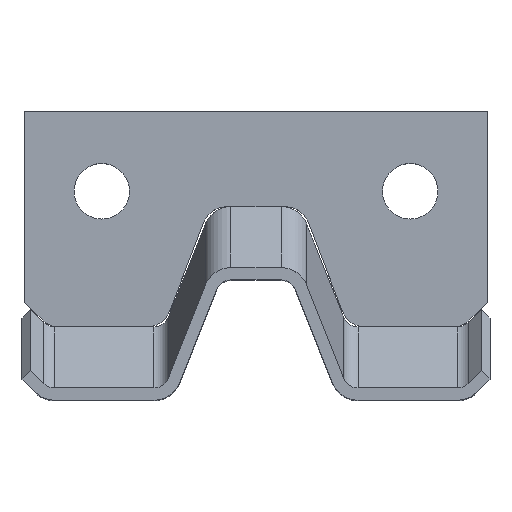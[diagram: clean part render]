
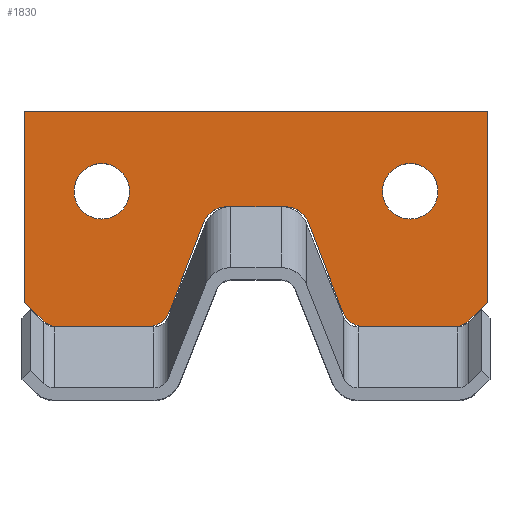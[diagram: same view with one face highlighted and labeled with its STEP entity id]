
A CAD part, top view. The second image highlights one B-rep face of the part: STEP entity #1830.
In plain terms, the highlighted planar face has unit normal (0, 0, 1).
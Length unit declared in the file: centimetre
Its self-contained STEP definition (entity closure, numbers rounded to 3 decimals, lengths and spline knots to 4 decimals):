
#88=FACE_BOUND('',#211,.T.);
#89=FACE_BOUND('',#212,.T.);
#100=FACE_OUTER_BOUND('',#210,.T.);
#210=EDGE_LOOP('',(#1220,#1221,#1222,#1223,#1224,#1225,#1226,#1227,#1228,
#1229,#1230,#1231,#1232,#1233,#1234,#1235,#1236,#1237));
#211=EDGE_LOOP('',(#1238));
#212=EDGE_LOOP('',(#1239));
#332=CIRCLE('',#1943,0.8);
#333=CIRCLE('',#1944,0.8);
#334=CIRCLE('',#1945,0.8);
#335=CIRCLE('',#1946,0.8);
#336=CIRCLE('',#1947,0.8);
#337=CIRCLE('',#1948,0.8);
#338=CIRCLE('',#1949,0.9);
#339=CIRCLE('',#1950,0.9);
#380=LINE('',#2696,#582);
#381=LINE('',#2698,#583);
#382=LINE('',#2700,#584);
#383=LINE('',#2704,#585);
#384=LINE('',#2708,#586);
#385=LINE('',#2712,#587);
#386=LINE('',#2714,#588);
#387=LINE('',#2716,#589);
#388=LINE('',#2720,#590);
#389=LINE('',#2724,#591);
#390=LINE('',#2728,#592);
#391=LINE('',#2729,#593);
#582=VECTOR('',#2128,0.1);
#583=VECTOR('',#2129,0.1);
#584=VECTOR('',#2130,0.1);
#585=VECTOR('',#2133,0.1);
#586=VECTOR('',#2136,0.1);
#587=VECTOR('',#2139,0.1);
#588=VECTOR('',#2140,0.1);
#589=VECTOR('',#2141,0.1);
#590=VECTOR('',#2144,0.1);
#591=VECTOR('',#2147,0.1);
#592=VECTOR('',#2150,0.1);
#593=VECTOR('',#2151,0.1);
#784=VERTEX_POINT('',#2694);
#785=VERTEX_POINT('',#2695);
#786=VERTEX_POINT('',#2697);
#787=VERTEX_POINT('',#2699);
#788=VERTEX_POINT('',#2701);
#789=VERTEX_POINT('',#2703);
#790=VERTEX_POINT('',#2705);
#791=VERTEX_POINT('',#2707);
#792=VERTEX_POINT('',#2709);
#793=VERTEX_POINT('',#2711);
#794=VERTEX_POINT('',#2713);
#795=VERTEX_POINT('',#2715);
#796=VERTEX_POINT('',#2717);
#797=VERTEX_POINT('',#2719);
#798=VERTEX_POINT('',#2721);
#799=VERTEX_POINT('',#2723);
#800=VERTEX_POINT('',#2725);
#801=VERTEX_POINT('',#2727);
#802=VERTEX_POINT('',#2730);
#803=VERTEX_POINT('',#2732);
#946=EDGE_CURVE('',#784,#785,#380,.T.);
#947=EDGE_CURVE('',#785,#786,#381,.T.);
#948=EDGE_CURVE('',#786,#787,#382,.T.);
#949=EDGE_CURVE('',#787,#788,#332,.T.);
#950=EDGE_CURVE('',#789,#788,#383,.T.);
#951=EDGE_CURVE('',#789,#790,#333,.T.);
#952=EDGE_CURVE('',#790,#791,#384,.T.);
#953=EDGE_CURVE('',#791,#792,#334,.T.);
#954=EDGE_CURVE('',#792,#793,#385,.T.);
#955=EDGE_CURVE('',#794,#793,#386,.T.);
#956=EDGE_CURVE('',#794,#795,#387,.T.);
#957=EDGE_CURVE('',#795,#796,#335,.T.);
#958=EDGE_CURVE('',#796,#797,#388,.T.);
#959=EDGE_CURVE('',#797,#798,#336,.T.);
#960=EDGE_CURVE('',#799,#798,#389,.T.);
#961=EDGE_CURVE('',#799,#800,#337,.T.);
#962=EDGE_CURVE('',#800,#801,#390,.T.);
#963=EDGE_CURVE('',#801,#784,#391,.T.);
#964=EDGE_CURVE('',#802,#802,#338,.T.);
#965=EDGE_CURVE('',#803,#803,#339,.T.);
#1220=ORIENTED_EDGE('',*,*,#946,.T.);
#1221=ORIENTED_EDGE('',*,*,#947,.T.);
#1222=ORIENTED_EDGE('',*,*,#948,.T.);
#1223=ORIENTED_EDGE('',*,*,#949,.T.);
#1224=ORIENTED_EDGE('',*,*,#950,.F.);
#1225=ORIENTED_EDGE('',*,*,#951,.T.);
#1226=ORIENTED_EDGE('',*,*,#952,.T.);
#1227=ORIENTED_EDGE('',*,*,#953,.T.);
#1228=ORIENTED_EDGE('',*,*,#954,.T.);
#1229=ORIENTED_EDGE('',*,*,#955,.F.);
#1230=ORIENTED_EDGE('',*,*,#956,.T.);
#1231=ORIENTED_EDGE('',*,*,#957,.T.);
#1232=ORIENTED_EDGE('',*,*,#958,.T.);
#1233=ORIENTED_EDGE('',*,*,#959,.T.);
#1234=ORIENTED_EDGE('',*,*,#960,.F.);
#1235=ORIENTED_EDGE('',*,*,#961,.T.);
#1236=ORIENTED_EDGE('',*,*,#962,.T.);
#1237=ORIENTED_EDGE('',*,*,#963,.T.);
#1238=ORIENTED_EDGE('',*,*,#964,.T.);
#1239=ORIENTED_EDGE('',*,*,#965,.T.);
#1768=PLANE('',#1942);
#1830=ADVANCED_FACE('',(#100,#88,#89),#1768,.T.);
#1942=AXIS2_PLACEMENT_3D('',#2693,#2126,#2127);
#1943=AXIS2_PLACEMENT_3D('',#2702,#2131,#2132);
#1944=AXIS2_PLACEMENT_3D('',#2706,#2134,#2135);
#1945=AXIS2_PLACEMENT_3D('',#2710,#2137,#2138);
#1946=AXIS2_PLACEMENT_3D('',#2718,#2142,#2143);
#1947=AXIS2_PLACEMENT_3D('',#2722,#2145,#2146);
#1948=AXIS2_PLACEMENT_3D('',#2726,#2148,#2149);
#1949=AXIS2_PLACEMENT_3D('',#2731,#2152,#2153);
#1950=AXIS2_PLACEMENT_3D('',#2733,#2154,#2155);
#2126=DIRECTION('center_axis',(0.,0.,1.));
#2127=DIRECTION('ref_axis',(1.,0.,0.));
#2128=DIRECTION('',(-1.,0.,0.));
#2129=DIRECTION('',(0.,-1.,0.));
#2130=DIRECTION('',(0.707,-0.707,0.));
#2131=DIRECTION('center_axis',(0.,0.,1.));
#2132=DIRECTION('ref_axis',(-0.707,-0.707,0.));
#2133=DIRECTION('',(-1.,0.,0.));
#2134=DIRECTION('center_axis',(0.,0.,1.));
#2135=DIRECTION('ref_axis',(0.,-1.,0.));
#2136=DIRECTION('',(0.359,0.933,0.));
#2137=DIRECTION('center_axis',(0.,0.,-1.));
#2138=DIRECTION('ref_axis',(-0.933,0.359,0.));
#2139=DIRECTION('',(1.,0.,0.));
#2140=DIRECTION('',(-1.,0.,0.));
#2141=DIRECTION('',(1.,0.,0.));
#2142=DIRECTION('center_axis',(0.,0.,-1.));
#2143=DIRECTION('ref_axis',(0.,1.,0.));
#2144=DIRECTION('',(0.359,-0.933,0.));
#2145=DIRECTION('center_axis',(0.,0.,1.));
#2146=DIRECTION('ref_axis',(-0.933,-0.359,0.));
#2147=DIRECTION('',(-1.,0.,0.));
#2148=DIRECTION('center_axis',(0.,0.,1.));
#2149=DIRECTION('ref_axis',(0.,-1.,0.));
#2150=DIRECTION('',(0.707,0.707,0.));
#2151=DIRECTION('',(0.,1.,0.));
#2152=DIRECTION('center_axis',(0.,0.,-1.));
#2153=DIRECTION('ref_axis',(1.,0.,0.));
#2154=DIRECTION('center_axis',(0.,0.,-1.));
#2155=DIRECTION('ref_axis',(1.,0.,0.));
#2693=CARTESIAN_POINT('Origin',(-85.9958,279.8304,1.));
#2694=CARTESIAN_POINT('',(-78.4958,283.0396,1.));
#2695=CARTESIAN_POINT('',(-93.4958,283.0396,1.));
#2696=CARTESIAN_POINT('',(-78.4958,283.0396,1.));
#2697=CARTESIAN_POINT('',(-93.4958,276.8396,1.));
#2698=CARTESIAN_POINT('',(-93.4958,283.0396,1.));
#2699=CARTESIAN_POINT('',(-92.9301,276.2739,1.));
#2700=CARTESIAN_POINT('',(-93.4958,276.8396,1.));
#2701=CARTESIAN_POINT('',(-92.3644,276.0396,1.));
#2702=CARTESIAN_POINT('Origin',(-92.3644,276.8396,1.));
#2703=CARTESIAN_POINT('',(-89.5452,276.0396,1.));
#2704=CARTESIAN_POINT('',(-89.2584,276.0396,1.));
#2705=CARTESIAN_POINT('',(-88.7985,276.5524,1.));
#2706=CARTESIAN_POINT('Origin',(-89.5452,276.8396,1.));
#2707=CARTESIAN_POINT('',(-87.693,279.4268,1.));
#2708=CARTESIAN_POINT('',(-88.7985,276.5524,1.));
#2709=CARTESIAN_POINT('',(-86.9463,279.9396,1.));
#2710=CARTESIAN_POINT('Origin',(-86.9463,279.1396,1.));
#2711=CARTESIAN_POINT('',(-86.8064,279.9396,1.));
#2712=CARTESIAN_POINT('',(-86.9463,279.9396,1.));
#2713=CARTESIAN_POINT('',(-85.1851,279.9396,1.));
#2714=CARTESIAN_POINT('',(-86.4011,279.9396,1.));
#2715=CARTESIAN_POINT('',(-85.0452,279.9396,1.));
#2716=CARTESIAN_POINT('',(-86.9463,279.9396,1.));
#2717=CARTESIAN_POINT('',(-84.2985,279.4268,1.));
#2718=CARTESIAN_POINT('Origin',(-85.0452,279.1396,1.));
#2719=CARTESIAN_POINT('',(-83.193,276.5524,1.));
#2720=CARTESIAN_POINT('',(-84.2985,279.4268,1.));
#2721=CARTESIAN_POINT('',(-82.4463,276.0396,1.));
#2722=CARTESIAN_POINT('Origin',(-82.4463,276.8396,1.));
#2723=CARTESIAN_POINT('',(-79.6271,276.0396,1.));
#2724=CARTESIAN_POINT('',(-84.3404,276.0396,1.));
#2725=CARTESIAN_POINT('',(-79.0614,276.2739,1.));
#2726=CARTESIAN_POINT('Origin',(-79.6271,276.8396,1.));
#2727=CARTESIAN_POINT('',(-78.4958,276.8396,1.));
#2728=CARTESIAN_POINT('',(-79.0614,276.2739,1.));
#2729=CARTESIAN_POINT('',(-78.4958,276.8396,1.));
#2730=CARTESIAN_POINT('',(-81.8958,280.4396,1.));
#2731=CARTESIAN_POINT('Origin',(-80.9958,280.4396,1.));
#2732=CARTESIAN_POINT('',(-91.8958,280.4396,1.));
#2733=CARTESIAN_POINT('Origin',(-90.9958,280.4396,1.));
